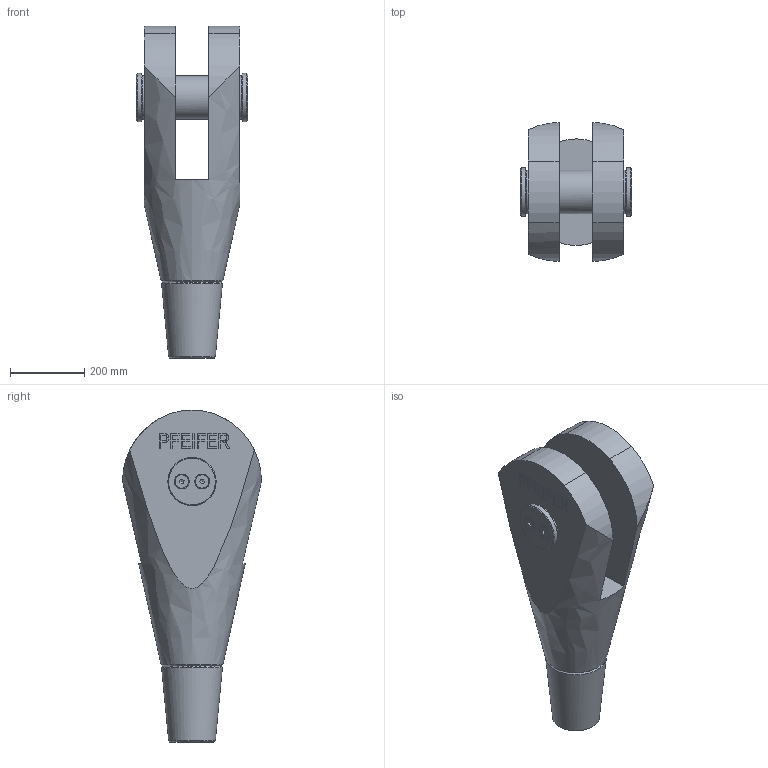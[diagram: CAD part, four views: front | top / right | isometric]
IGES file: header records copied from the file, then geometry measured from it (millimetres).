
Global section: file name: 520-110-GAK; native system: Autodesk Inventor 2016; preprocessor: unknown; author: Administrator; date: 20200625.080713; units: centimetre
Bounding box: 302 x 374.92 x 896 mm (x, y, z)
Volume: 34295094.7 mm3; surface area: 1213049.7 mm2
Topology: 3 solids, 10 shells, 241 faces, 638 edges, 429 vertices
Faces by surface type: bspline 241
